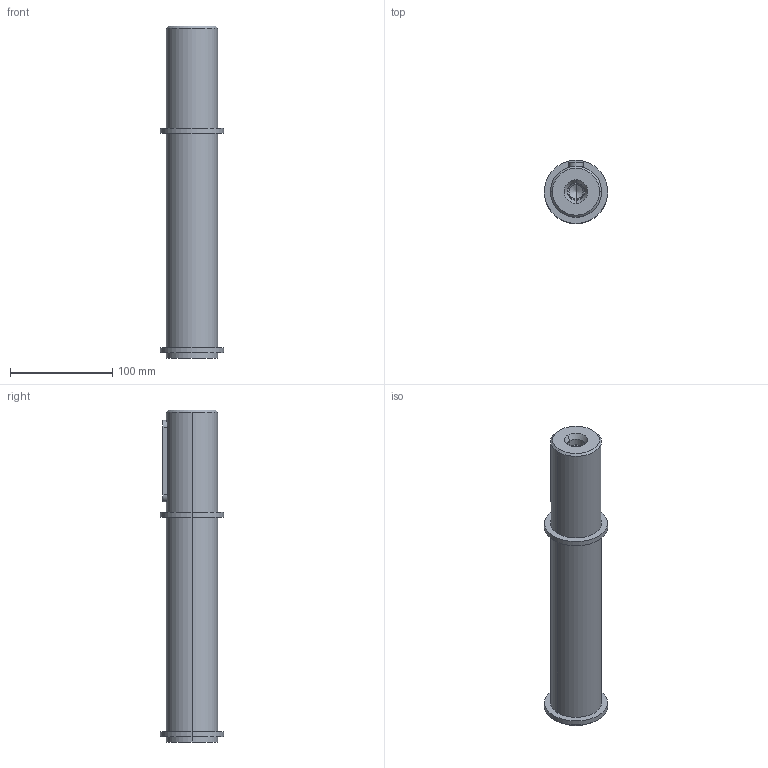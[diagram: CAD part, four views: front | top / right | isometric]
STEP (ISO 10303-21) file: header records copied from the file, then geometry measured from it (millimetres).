
FILE_DESCRIPTION(/* description */ (''),/* implementation_level */ '2;1');
FILE_NAME(/* name */ '4_ALBERO LENTO SEMPLICE B103',/* time_stamp */ '2025-10-22T11:13:27+02:00',/* author */ (''),/* organization */ (''),/* preprocessor_version */ 'ST-DEVELOPER v19.2',/* originating_system */ 'Rhino 8.23',/* authorisation */ '');
FILE_SCHEMA (('CONFIG_CONTROL_DESIGN'));
Length unit declared in the file: millimetre
Products named in the file (2): Document; Albero 50x100-(1031)
Bounding box: 62 x 62 x 325 mm (x, y, z)
Volume: 644163.3 mm3; surface area: 62127.6 mm2
Topology: 1 solids, 1 shells, 34 faces, 70 edges, 43 vertices
Faces by surface type: cylinder 16, plane 10, bspline 8
Entity records: 1178 total; most frequent: CARTESIAN_POINT 341, ORIENTED_EDGE 136, DIRECTION 106, EDGE_CURVE 68, AXIS2_PLACEMENT_3D 66, VERTEX_POINT 43, EDGE_LOOP 41, TRIMMED_CURVE 36
